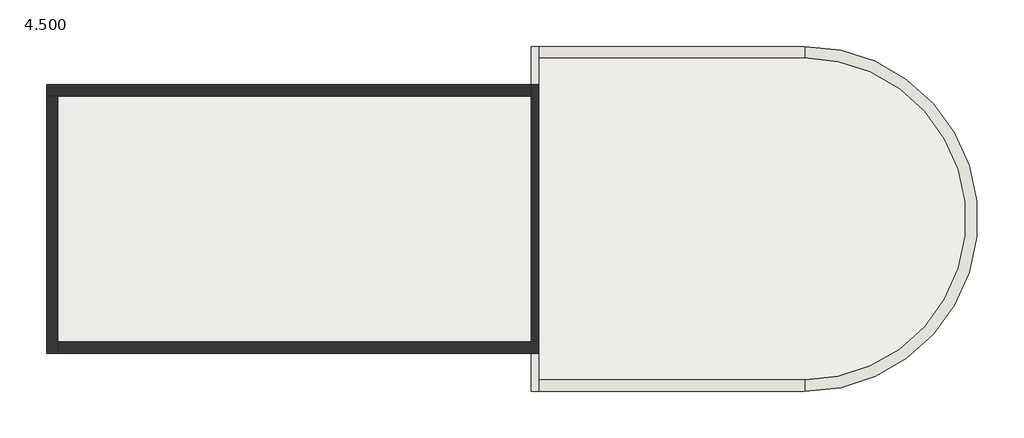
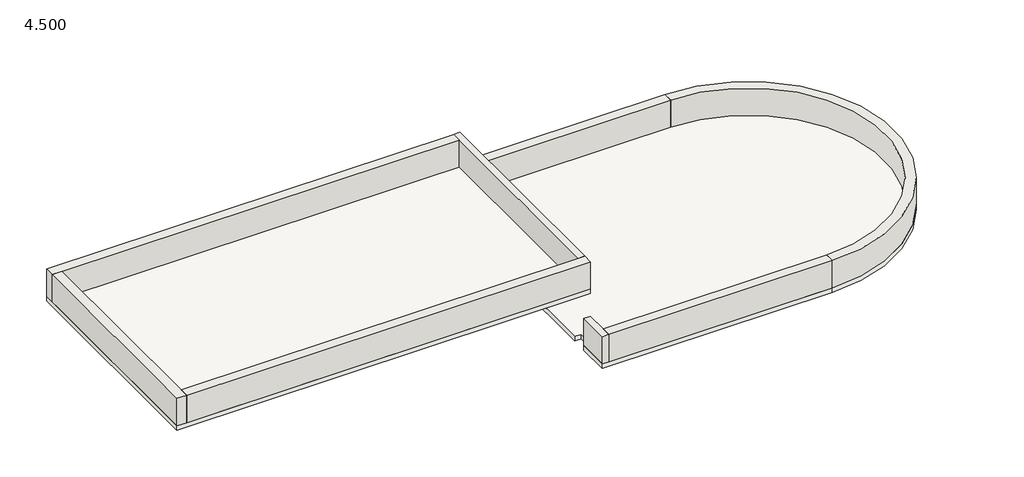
# One storey: 9 walls, 2 roofs.
"""IFC4 building model written with IfcOpenShell, lengths in millimetres."""

from ifc_helpers import new_model, si_unit, point, frame, frame_2d, origin, place, context, project, spatial, polyline, circle_curve, trimmed, segment, composite_curve, outline, extrude, faceted_brep, element, save
from ifc_brep_helpers import plane_surface, cylinder_surface, advanced_brep

model = new_model("IFC4")

# Units and contexts
model_context = context("Model", 3, world=origin())
ifc_project = project(units=[si_unit("LENGTHUNIT", "METRE", prefix="MILLI")], contexts=[model_context])

# Site, building, storey
site = spatial("IfcSite", under=ifc_project)
building = spatial("IfcBuilding", under=site)
storey = spatial("IfcBuildingStorey", under=building, Name="4.500", Elevation=4500.0)

# Roofs
placement = place(None, origin())
element("IfcRoof", 1, ObjectType="常规 -150mm", at=placement, inside=storey, context=model_context, shape_type="AdvancedBrep", body=[
    advanced_brep(
    [(-36525.7378629, -32580.7017086, 3450.0), (-29350.7378629, -32580.7017086, 3450.0), (-29350.7378629, -41630.7017086, 3450.0), (-36525.7378629, -41630.7017086, 3450.0), (-36525.7378629, -40630.7017086, 3450.0), (-36325.7378629, -40630.7017086, 3450.0), (-36325.7378629, -40330.7017086, 3450.0), (-36325.7378629, -40130.7017086, 3450.0), (-36525.7378629, -40130.7017086, 3450.0), (-36525.7378629, -34080.7017086, 3450.0), (-36325.7378629, -34080.7017086, 3450.0), (-36325.7378629, -33880.7017086, 3450.0), (-36325.7378629, -33580.7017086, 3450.0), (-36525.7378629, -33580.7017086, 3450.0), (-29350.7378629, -32580.7017086, 3600.0), (-36525.7378629, -32580.7017086, 3600.0), (-36525.7378629, -33580.7017086, 3600.0), (-36325.7378629, -33580.7017086, 3600.0), (-36325.7378629, -34080.7017086, 3600.0), (-36525.7378629, -34080.7017086, 3600.0), (-36525.7378629, -40130.7017086, 3600.0), (-36325.7378629, -40130.7017086, 3600.0), (-36325.7378629, -40630.7017086, 3600.0), (-36525.7378629, -40630.7017086, 3600.0), (-36525.7378629, -41630.7017086, 3600.0), (-29350.7378629, -41630.7017086, 3600.0)],
    [
        (0, 1),
        (1, 2, circle_curve(frame((-29350.7378629, -37105.7017086, 3450.0), z_axis=(0.0, 0.0, -1.0), x_axis=(1.0, 0.0, 0.0)), 4525.0)),
        (2, 3),
        (3, 4),
        (4, 5),
        (5, 6),
        (6, 7),
        (7, 8),
        (8, 9),
        (9, 10),
        (10, 11),
        (11, 12),
        (12, 13),
        (13, 0),
        (14, 15),
        (15, 16),
        (16, 17),
        (17, 18),
        (18, 19),
        (19, 20),
        (20, 21),
        (21, 22),
        (22, 23),
        (23, 24),
        (24, 25),
        (25, 14, circle_curve(frame((-29350.7378629, -37105.7017086, 3600.0), z_axis=(0.0, 0.0, 1.0), x_axis=(1.0, 0.0, 0.0)), 4525.0)),
        (14, 1),
        (0, 15),
        (25, 2),
        (24, 3),
        (23, 4),
        (19, 9),
        (8, 20),
        (13, 16),
        (12, 17),
        (10, 18),
        (7, 21),
        (5, 22),
    ],
    [
        plane_surface(frame((-29350.7378629, -32580.7017086, 3450.0), z_axis=(0.0, 0.0, -1.0), x_axis=(1.0, 0.0, 0.0))),
        plane_surface(frame((-29350.7378629, -32580.7017086, 3600.0), z_axis=(0.0, 0.0, 1.0), x_axis=(1.0, 0.0, 0.0))),
        plane_surface(frame((-29350.7378629, -32580.7017086, 4500.0), z_axis=(0.0, 1.0, 0.0), x_axis=(-1.0, 0.0, 0.0))),
        cylinder_surface(frame((-29350.7378629, -37105.7017086, 4500.0), z_axis=(0.0, 0.0, 1.0), x_axis=(1.0, 0.0, 0.0)), 4525.0),
        plane_surface(frame((-36525.7378629, -41630.7017086, 4500.0), z_axis=(0.0, -1.0, 0.0), x_axis=(1.0, 0.0, 0.0))),
        plane_surface(frame((-36525.7378629, -40630.7017086, 4500.0), z_axis=(-1.0, 0.0, 0.0), x_axis=(0.0, -1.0, 0.0))),
        plane_surface(frame((-36525.7378629, -34080.7017086, 4500.0), z_axis=(-1.0, 0.0, 0.0), x_axis=(0.0, -1.0, 0.0))),
        plane_surface(frame((-36525.7378629, -32580.7017086, 4500.0), z_axis=(-1.0, 0.0, 0.0), x_axis=(0.0, -1.0, 0.0))),
        plane_surface(frame((-36525.7378629, -33580.7017086, 4500.0), z_axis=(0.0, -1.0, 0.0), x_axis=(1.0, 0.0, 0.0))),
        plane_surface(frame((-36325.7378629, -33580.7017086, 4500.0), z_axis=(-1.0, 0.0, 0.0), x_axis=(0.0, -1.0, 0.0))),
        plane_surface(frame((-36325.7378629, -34080.7017086, 4500.0), z_axis=(0.0, 1.0, 0.0), x_axis=(-1.0, 0.0, 0.0))),
        plane_surface(frame((-36525.7378629, -40130.7017086, 4500.0), z_axis=(0.0, -1.0, 0.0), x_axis=(1.0, 0.0, 0.0))),
        plane_surface(frame((-36325.7378629, -40130.7017086, 4500.0), z_axis=(-1.0, 0.0, 0.0), x_axis=(0.0, -1.0, 0.0))),
        plane_surface(frame((-36325.7378629, -40630.7017086, 4500.0), z_axis=(0.0, 1.0, 0.0), x_axis=(-1.0, 0.0, 0.0))),
    ],
    [
        (0, [[1, 2, 3, 4, 5, 6, 7, 8, 9, 10, 11, 12, 13, 14]]),
        (1, [[15, 16, 17, 18, 19, 20, 21, 22, 23, 24, 25, 26]]),
        (2, [[-15, 27, -1, 28]]),
        (3, [[-26, 29, -2, -27]]),
        (4, [[-25, 30, -3, -29]]),
        (5, [[-24, 31, -4, -30]]),
        (6, [[-20, 32, -9, 33]]),
        (7, [[-16, -28, -14, 34]]),
        (8, [[-17, -34, -13, 35]]),
        (9, [[-18, -35, -12, -11, 36]]),
        (10, [[-19, -36, -10, -32]]),
        (11, [[-21, -33, -8, 37]]),
        (12, [[-22, -37, -7, -6, 38]]),
        (13, [[-23, -38, -5, -31]]),
    ],
),
])
element("IfcRoof", 2, ObjectType="常规 -150mm", at=placement, inside=storey, context=model_context, shape_type="SweptSolid", body=[
    extrude(outline(polyline([(-49225.7378629, -33580.7017086), (-36325.7378629, -33580.7017086), (-36325.7378629, -40630.7017086), (-49225.7378629, -40630.7017086), (-49225.7378629, -33580.7017086)])), frame((0.0, 0.0, 5250.0), z_axis=(0.0, 0.0, 1.0), x_axis=(1.0, 0.0, 0.0)), (0.0, 0.0, 1.0), 150.0),
])

# Walls
element("IfcWall", 3, ObjectType="地上内墙", at=placement, inside=storey, context=model_context, shape_type="Brep", body=[
    faceted_brep([(-36325.7378629, -33580.7017086, 3600.0), (-36325.7378629, -32880.7017086, 3600.0), (-36325.7378629, -32580.7017086, 3600.0), (-36325.7378629, -32580.7017086, 4500.0), (-36325.7378629, -32880.7017086, 4500.0), (-36325.7378629, -33580.7017086, 4500.0), (-36525.7378629, -33580.7017086, 3600.0), (-36525.7378629, -33580.7017086, 4500.0), (-36525.7378629, -32580.7017086, 4500.0), (-36525.7378629, -32580.7017086, 3600.0)], [[[0, 1, 2, 3, 4, 5]], [[6, 7, 8, 9]], [[2, 1, 0, 6, 9]], [[5, 4, 3, 8, 7]], [[0, 5, 7, 6]], [[3, 2, 9, 8]]]),
])
element("IfcWall", 4, ObjectType="地上外墙", at=placement, inside=storey, context=model_context, shape_type="SweptSolid", body=[
    extrude(outline(polyline([(-29350.7378629, -32880.7017086), (-36325.7378629, -32880.7017086), (-36325.7378629, -32580.7017086), (-29350.7378629, -32580.7017086), (-29350.7378629, -32880.7017086)])), frame((0.0, 0.0, 3600.0), z_axis=(0.0, 0.0, 1.0), x_axis=(1.0, 0.0, 0.0)), (0.0, 0.0, 1.0), 900.0),
])
element("IfcWall", 5, ObjectType="地上外墙", at=placement, inside=storey, context=model_context, shape_type="SweptSolid", body=[
    extrude(outline(composite_curve([segment(polyline([(-29350.7378629, -41630.7017086), (-29350.7378629, -41330.7017086)]), True, "CONTINUOUS"), segment(trimmed(circle_curve(frame_2d((-29350.7378629, -37105.7017086)), 4225.0), [point((-29350.7378629, -41330.7017086))], [point((-29350.7378629, -32880.7017086))], True, "CARTESIAN"), True, "CONTINUOUS"), segment(polyline([(-29350.7378629, -32880.7017086), (-29350.7378629, -32580.7017086)]), True, "CONTINUOUS"), segment(trimmed(circle_curve(frame_2d((-29350.7378629, -37105.7017086)), 4525.0), [point((-29350.7378629, -32580.7017086))], [point((-29350.7378629, -41630.7017086))], False, "CARTESIAN"), True, "CONTINUOUS")], self_intersect=False)), frame((0.0, 0.0, 3600.0), z_axis=(0.0, 0.0, 1.0), x_axis=(1.0, 0.0, 0.0)), (0.0, 0.0, 1.0), 900.0),
])
element("IfcWall", 6, ObjectType="地上外墙", at=placement, inside=storey, context=model_context, shape_type="SweptSolid", body=[
    extrude(outline(polyline([(-36325.7378629, -41330.7017086), (-29350.7378629, -41330.7017086), (-29350.7378629, -41630.7017086), (-36325.7378629, -41630.7017086), (-36325.7378629, -41330.7017086)])), frame((0.0, 0.0, 3600.0), z_axis=(0.0, 0.0, 1.0), x_axis=(1.0, 0.0, 0.0)), (0.0, 0.0, 1.0), 900.0),
])
element("IfcWall", 7, ObjectType="地上内墙", at=placement, inside=storey, context=model_context, shape_type="Brep", body=[
    faceted_brep([(-36525.7378629, -40630.7017086, 3600.0), (-36525.7378629, -41630.7017086, 3600.0), (-36525.7378629, -41630.7017086, 4500.0), (-36525.7378629, -40630.7017086, 4500.0), (-36325.7378629, -40630.7017086, 3600.0), (-36325.7378629, -40630.7017086, 4500.0), (-36325.7378629, -41330.7017086, 4500.0), (-36325.7378629, -41630.7017086, 4500.0), (-36325.7378629, -41630.7017086, 3600.0), (-36325.7378629, -41330.7017086, 3600.0)], [[[0, 1, 2, 3]], [[4, 5, 6, 7, 8, 9]], [[1, 0, 4, 9, 8]], [[3, 2, 7, 6, 5]], [[0, 3, 5, 4]], [[2, 1, 8, 7]]]),
])
element("IfcWall", 8, ObjectType="地上外墙", at=placement, inside=storey, context=model_context, shape_type="Brep", body=[
    faceted_brep([(-49225.7378629, -33880.7017086, 5400.0), (-48925.7378629, -33880.7017086, 5400.0), (-36525.7378629, -33880.7017086, 5400.0), (-36525.7378629, -33880.7017086, 6300.0), (-48925.7378629, -33880.7017086, 6300.0), (-49225.7378629, -33880.7017086, 6300.0), (-49225.7378629, -33580.7017086, 5400.0), (-49225.7378629, -33580.7017086, 6300.0), (-36525.7378629, -33580.7017086, 6300.0), (-36525.7378629, -33580.7017086, 5400.0)], [[[0, 1, 2, 3, 4, 5]], [[6, 7, 8, 9]], [[2, 1, 0, 6, 9]], [[5, 4, 3, 8, 7]], [[0, 5, 7, 6]], [[3, 2, 9, 8]]]),
])
element("IfcWall", 9, ObjectType="地上外墙", at=placement, inside=storey, context=model_context, shape_type="Brep", body=[
    faceted_brep([(-48925.7378629, -40630.7017086, 5400.0), (-48925.7378629, -40330.7017086, 5400.0), (-48925.7378629, -33880.7017086, 5400.0), (-48925.7378629, -33880.7017086, 6300.0), (-48925.7378629, -40330.7017086, 6300.0), (-48925.7378629, -40630.7017086, 6300.0), (-49225.7378629, -40630.7017086, 5400.0), (-49225.7378629, -40630.7017086, 6300.0), (-49225.7378629, -33880.7017086, 6300.0), (-49225.7378629, -33880.7017086, 5400.0)], [[[0, 1, 2, 3, 4, 5]], [[6, 7, 8, 9]], [[2, 1, 0, 6, 9]], [[5, 4, 3, 8, 7]], [[0, 5, 7, 6]], [[3, 2, 9, 8]]]),
])
element("IfcWall", 10, ObjectType="地上外墙", at=placement, inside=storey, context=model_context, shape_type="Brep", body=[
    faceted_brep([(-36325.7378629, -40330.7017086, 5400.0), (-36525.7378629, -40330.7017086, 5400.0), (-48925.7378629, -40330.7017086, 5400.0), (-48925.7378629, -40330.7017086, 6300.0), (-36525.7378629, -40330.7017086, 6300.0), (-36325.7378629, -40330.7017086, 6300.0), (-36325.7378629, -40630.7017086, 5400.0), (-36325.7378629, -40630.7017086, 6300.0), (-48925.7378629, -40630.7017086, 6300.0), (-48925.7378629, -40630.7017086, 5400.0)], [[[0, 1, 2, 3, 4, 5]], [[6, 7, 8, 9]], [[2, 1, 0, 6, 9]], [[5, 4, 3, 8, 7]], [[0, 5, 7, 6]], [[3, 2, 9, 8]]]),
])
element("IfcWall", 11, ObjectType="地上内墙", at=placement, inside=storey, context=model_context, shape_type="Brep", body=[
    faceted_brep([(-36525.7378629, -33580.7017086, 5400.0), (-36525.7378629, -33880.7017086, 5400.0), (-36525.7378629, -40330.7017086, 5400.0), (-36525.7378629, -40330.7017086, 6300.0), (-36525.7378629, -33880.7017086, 6300.0), (-36525.7378629, -33580.7017086, 6300.0), (-36325.7378629, -33580.7017086, 5400.0), (-36325.7378629, -33580.7017086, 6300.0), (-36325.7378629, -40330.7017086, 6300.0), (-36325.7378629, -40330.7017086, 5400.0)], [[[0, 1, 2, 3, 4, 5]], [[6, 7, 8, 9]], [[2, 1, 0, 6, 9]], [[5, 4, 3, 8, 7]], [[0, 5, 7, 6]], [[3, 2, 9, 8]]]),
])

save(model, "model.ifc")
